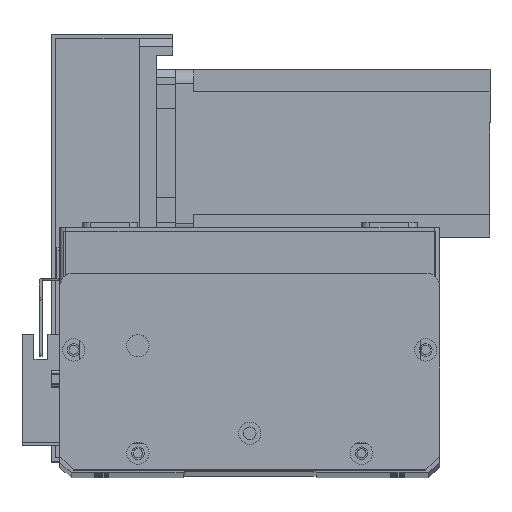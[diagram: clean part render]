
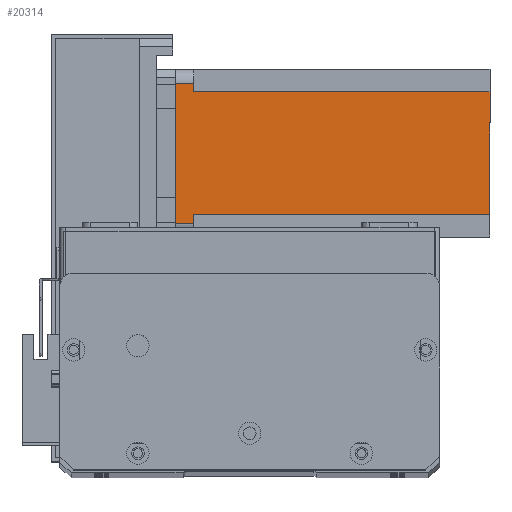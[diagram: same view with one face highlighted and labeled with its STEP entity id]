
A CAD part, top view. The second image highlights one B-rep face of the part: STEP entity #20314.
In plain terms, the highlighted planar face has unit normal (0, 0, 1) as drawn and (0, -1, 0) by its records, which use the part's own axes.
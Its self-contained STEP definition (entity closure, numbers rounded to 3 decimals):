
#72 = FACE_OUTER_BOUND ( 'NONE', #5183, .T. ) ;
#479 = DIRECTION ( 'NONE',  ( 0., 0., 1. ) ) ;
#838 = CARTESIAN_POINT ( 'NONE',  ( 0., 0., -112.5 ) ) ;
#1006 = VECTOR ( 'NONE', #26541, 1000. ) ;
#1344 = CARTESIAN_POINT ( 'NONE',  ( 8., 0., -6.5 ) ) ;
#1404 = DIRECTION ( 'NONE',  ( 0., 0., -1. ) ) ;
#1580 = VECTOR ( 'NONE', #23916, 1000. ) ;
#1698 = LINE ( 'NONE', #5563, #1006 ) ;
#1931 = LINE ( 'NONE', #838, #12750 ) ;
#2092 = CARTESIAN_POINT ( 'NONE',  ( 8., 0., -6.5 ) ) ;
#2206 = VERTEX_POINT ( 'NONE', #3477 ) ;
#2708 = VERTEX_POINT ( 'NONE', #3099 ) ;
#3099 = CARTESIAN_POINT ( 'NONE',  ( 55., 0., 0. ) ) ;
#3477 = CARTESIAN_POINT ( 'NONE',  ( 52., 0., -6.5 ) ) ;
#3511 = DIRECTION ( 'NONE',  ( -1., 0., 0. ) ) ;
#3744 = EDGE_CURVE ( 'NONE', #2206, #26167, #8470, .T. ) ;
#5183 = EDGE_LOOP ( 'NONE', ( #26304, #6231, #15290, #18750, #21897, #24657, #6325, #16695 ) ) ;
#5563 = CARTESIAN_POINT ( 'NONE',  ( 5., 0., -112.5 ) ) ;
#6020 = LINE ( 'NONE', #1344, #19587 ) ;
#6231 = ORIENTED_EDGE ( 'NONE', *, *, #16146, .T. ) ;
#6241 = VECTOR ( 'NONE', #479, 1000. ) ;
#6325 = ORIENTED_EDGE ( 'NONE', *, *, #23531, .T. ) ;
#6916 = CARTESIAN_POINT ( 'NONE',  ( 55., 0., -112.5 ) ) ;
#6967 = LINE ( 'NONE', #6916, #6241 ) ;
#7386 = VECTOR ( 'NONE', #10535, 1000. ) ;
#8470 = LINE ( 'NONE', #12719, #19837 ) ;
#8735 = CARTESIAN_POINT ( 'NONE',  ( 5., 0., -6.5 ) ) ;
#8886 = LINE ( 'NONE', #12846, #7386 ) ;
#8935 = DIRECTION ( 'NONE',  ( 0., 0., 1. ) ) ;
#9266 = CARTESIAN_POINT ( 'NONE',  ( 5., 0., 0. ) ) ;
#10430 = EDGE_CURVE ( 'NONE', #2206, #16489, #8886, .T. ) ;
#10535 = DIRECTION ( 'NONE',  ( 1., 0., 0. ) ) ;
#12719 = CARTESIAN_POINT ( 'NONE',  ( 52., 0., -112.5 ) ) ;
#12750 = VECTOR ( 'NONE', #14549, 1000. ) ;
#12846 = CARTESIAN_POINT ( 'NONE',  ( 52., 0., -6.5 ) ) ;
#13015 = DIRECTION ( 'NONE',  ( 0., 0., -1. ) ) ;
#13249 = VERTEX_POINT ( 'NONE', #27344 ) ;
#13414 = EDGE_CURVE ( 'NONE', #15357, #15301, #6020, .T. ) ;
#14005 = LINE ( 'NONE', #22470, #25884 ) ;
#14549 = DIRECTION ( 'NONE',  ( 1., 0., 0. ) ) ;
#15135 = DIRECTION ( 'NONE',  ( 0., -1., 0. ) ) ;
#15258 = EDGE_CURVE ( 'NONE', #19420, #15301, #1698, .T. ) ;
#15290 = ORIENTED_EDGE ( 'NONE', *, *, #16992, .F. ) ;
#15301 = VERTEX_POINT ( 'NONE', #8735 ) ;
#15357 = VERTEX_POINT ( 'NONE', #2092 ) ;
#16146 = EDGE_CURVE ( 'NONE', #16489, #2708, #6967, .T. ) ;
#16489 = VERTEX_POINT ( 'NONE', #24523 ) ;
#16695 = ORIENTED_EDGE ( 'NONE', *, *, #3744, .F. ) ;
#16992 = EDGE_CURVE ( 'NONE', #19420, #2708, #25674, .T. ) ;
#17296 = CARTESIAN_POINT ( 'NONE',  ( 0., 0., 0. ) ) ;
#17406 = AXIS2_PLACEMENT_3D ( 'NONE', #28424, #15135, #1404 ) ;
#18750 = ORIENTED_EDGE ( 'NONE', *, *, #15258, .T. ) ;
#19420 = VERTEX_POINT ( 'NONE', #9266 ) ;
#19587 = VECTOR ( 'NONE', #3511, 1000. ) ;
#19837 = VECTOR ( 'NONE', #13015, 1000. ) ;
#19984 = EDGE_CURVE ( 'NONE', #13249, #15357, #14005, .T. ) ;
#20314 = ADVANCED_FACE ( 'NONE', ( #72 ), #23996, .T. ) ;
#21864 = CARTESIAN_POINT ( 'NONE',  ( 52., 0., -112.5 ) ) ;
#21897 = ORIENTED_EDGE ( 'NONE', *, *, #13414, .F. ) ;
#22470 = CARTESIAN_POINT ( 'NONE',  ( 8., 0., -112.5 ) ) ;
#23531 = EDGE_CURVE ( 'NONE', #13249, #26167, #1931, .T. ) ;
#23916 = DIRECTION ( 'NONE',  ( 1., 0., 0. ) ) ;
#23996 = PLANE ( 'NONE',  #17406 ) ;
#24523 = CARTESIAN_POINT ( 'NONE',  ( 55., 0., -6.5 ) ) ;
#24657 = ORIENTED_EDGE ( 'NONE', *, *, #19984, .F. ) ;
#25674 = LINE ( 'NONE', #17296, #1580 ) ;
#25884 = VECTOR ( 'NONE', #8935, 1000. ) ;
#26167 = VERTEX_POINT ( 'NONE', #21864 ) ;
#26304 = ORIENTED_EDGE ( 'NONE', *, *, #10430, .T. ) ;
#26541 = DIRECTION ( 'NONE',  ( 0., 0., -1. ) ) ;
#27344 = CARTESIAN_POINT ( 'NONE',  ( 8., 0., -112.5 ) ) ;
#28424 = CARTESIAN_POINT ( 'NONE',  ( 0., 0., -112.5 ) ) ;
